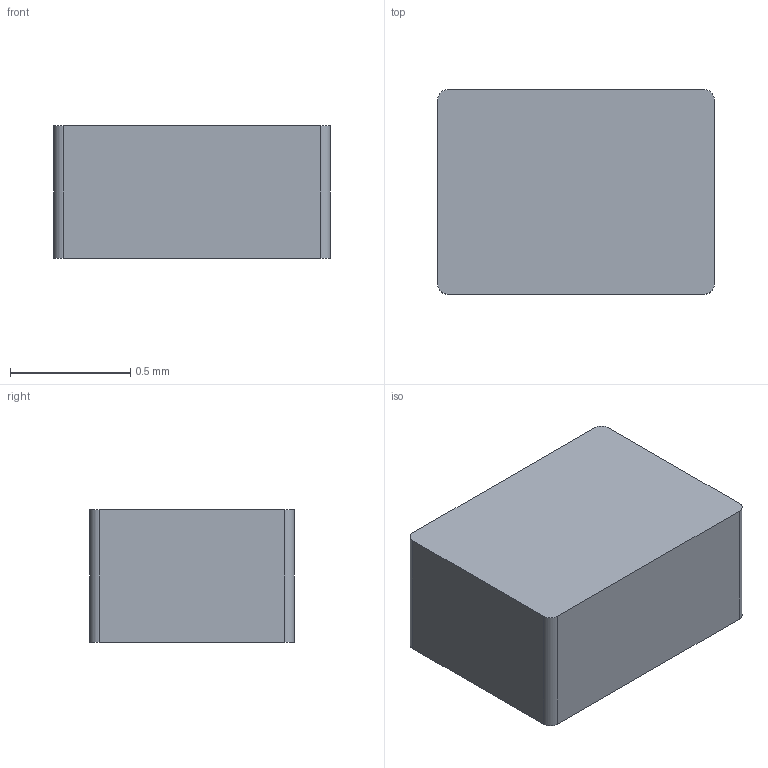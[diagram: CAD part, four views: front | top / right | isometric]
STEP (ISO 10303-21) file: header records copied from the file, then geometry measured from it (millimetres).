
FILE_DESCRIPTION(('Open CASCADE Model'),'2;1');
FILE_NAME('Open CASCADE Shape Model','2026-09-15T23:57:53',('Author'),( 'Open CASCADE'),'Open CASCADE STEP processor 7.9','Open CASCADE 7.9' ,'Unknown');
FILE_SCHEMA(('AUTOMOTIVE_DESIGN { 1 0 10303 214 1 1 1 1 }'));
Length unit declared in the file: millimetre
Products named in the file (1): Open CASCADE STEP translator 7.9 3
Bounding box: 1.15 x 0.85 x 0.55 mm (x, y, z)
Volume: 0.5 mm3; surface area: 4.1 mm2
Topology: 1 solids, 1 shells, 10 faces, 24 edges, 16 vertices
Faces by surface type: plane 6, cylinder 4
Entity records: 630 total; most frequent: CARTESIAN_POINT 123, DIRECTION 98, LINE 56, VECTOR 56, ORIENTED_EDGE 48, PCURVE 48, DEFINITIONAL_REPRESENTATION 48, EDGE_CURVE 24
